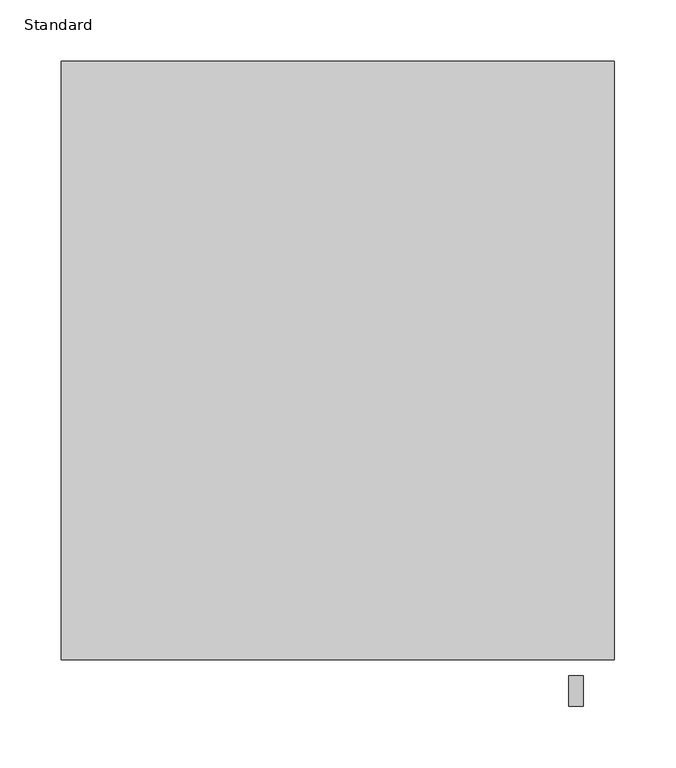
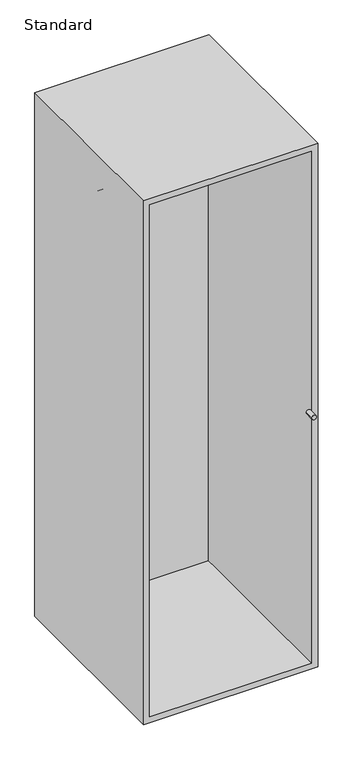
"""IFC4 building model written with IfcOpenShell, lengths in millimetres: furniture geometry, X_Locker-Duracube-EOT Bay : Standard."""

import ifcopenshell
import ifcopenshell.guid

model = None  # the IFC model being written
_history = None  # IfcOwnerHistory: only IFC2X3 demands one
_inside = {}  # id of a spatial element -> (the spatial element, [elements in it])
_under = {}  # id of a project, library or spatial element -> (it, [spatial elements below it])
_declared = {}  # id of a project -> (the project, [libraries it declares])
_typed = {}  # id of a type object -> (the type object, [elements of that type])
_made_of = {}  # id of a material, layer set ... -> (it, [elements and type objects made of it])


def new_model(schema):
    """Start an empty IFC model of exactly this schema.

    Asked for "IFC4X3", IfcOpenShell would pick the latest addendum, in which some entities
    have other attributes; the version numbers below select the first issue.
    IFC2X3 requires an IfcOwnerHistory on every rooted entity: one is made here for all.
    """
    global model, _history
    if schema == "IFC4X3":
        model = ifcopenshell.file(schema_version=(4, 3, 0, 0))
    else:
        model = ifcopenshell.file(schema=schema)
    _inside.clear()
    _under.clear()
    _declared.clear()
    _typed.clear()
    _made_of.clear()
    _history = None
    if model.schema == "IFC2X3":
        org = make("IfcOrganization", Name="unknown")
        user = make(
            "IfcPersonAndOrganization",
            ThePerson=make("IfcPerson", FamilyName="unknown"),
            TheOrganization=org,
        )
        app = make(
            "IfcApplication",
            ApplicationDeveloper=org,
            Version="unknown",
            ApplicationFullName="unknown",
            ApplicationIdentifier="unknown",
        )
        _history = make(
            "IfcOwnerHistory",
            OwningUser=user,
            OwningApplication=app,
            ChangeAction="ADDED",
            CreationDate=0,
        )
    return model


def make(cls, **values):
    """One entity of the class cls with the attributes given. An attribute that is None is left unset."""
    return model.create_entity(
        cls, **{name: value for name, value in values.items() if value is not None}
    )


def rooted(cls, **values):
    """An entity with a GlobalId (a new one), such as an element, a storey or a relation."""
    return make(cls, GlobalId=ifcopenshell.guid.new(), OwnerHistory=_history, **values)


def si_unit(unit_type, name, prefix=None):
    """IfcSIUnit, for example si_unit("LENGTHUNIT", "METRE", prefix="MILLI")."""
    return make("IfcSIUnit", UnitType=unit_type, Prefix=prefix, Name=name)


def assignment(units):
    """IfcUnitAssignment: the units of a project."""
    return None if units is None else make("IfcUnitAssignment", Units=units)


def point(xyz):
    """IfcCartesianPoint."""
    return None if xyz is None else make("IfcCartesianPoint", Coordinates=xyz)


def direction(xyz):
    """IfcDirection."""
    return None if xyz is None else make("IfcDirection", DirectionRatios=xyz)


def frame(location, z_axis=None, x_axis=None):
    """IfcAxis2Placement3D, a coordinate frame: its origin and axes. An axis left out is left unset."""
    return make(
        "IfcAxis2Placement3D",
        Location=point(location),
        Axis=direction(z_axis),
        RefDirection=direction(x_axis),
    )


def frame_2d(location, x_axis=None):
    """IfcAxis2Placement2D, a coordinate frame in the plane: its origin and x axis."""
    return make(
        "IfcAxis2Placement2D", Location=point(location), RefDirection=direction(x_axis)
    )


def origin():
    """The frame at (0, 0, 0) with its axes left unset."""
    return frame((0.0, 0.0, 0.0))


def place(relative_to, where):
    """IfcLocalPlacement: puts the frame where relative to a parent placement (None: the world)."""
    return make(
        "IfcLocalPlacement", PlacementRelTo=relative_to, RelativePlacement=where
    )


def context(
    kind, dimensions, precision=None, world=None, true_north=None, identifier=None
):
    """IfcGeometricRepresentationContext, for example the 3D "Model" context."""
    return make(
        "IfcGeometricRepresentationContext",
        ContextIdentifier=identifier,
        ContextType=kind,
        CoordinateSpaceDimension=dimensions,
        Precision=precision,
        WorldCoordinateSystem=world,
        TrueNorth=true_north,
    )


def project(units=None, contexts=None):
    """IfcProject with its units and contexts."""
    return rooted(
        "IfcProject",
        Name="project",
        RepresentationContexts=contexts,
        UnitsInContext=assignment(units),
    )


def spatial(cls, under=None, at=None, **own):
    """A site, building, storey or space (cls), placed at a placement, below another one or the project."""
    s = rooted(cls, ObjectPlacement=at, **own)
    if under is not None:
        _under.setdefault(under.id(), (under, []))[1].append(s)
    return s


def polyline(points):
    """IfcPolyline through the points."""
    return make("IfcPolyline", Points=[point(p) for p in points])


def circle_curve(where, radius):
    """IfcCircle in the frame where."""
    return make("IfcCircle", Position=where, Radius=radius)


def trimmed(basis, trim1, trim2, sense, master):
    """IfcTrimmedCurve: the piece of a basis curve between two trims."""
    return make(
        "IfcTrimmedCurve",
        BasisCurve=basis,
        Trim1=trim1,
        Trim2=trim2,
        SenseAgreement=sense,
        MasterRepresentation=master,
    )


def segment(curve, same_sense, transition):
    """IfcCompositeCurveSegment."""
    return make(
        "IfcCompositeCurveSegment",
        Transition=transition,
        SameSense=same_sense,
        ParentCurve=curve,
    )


def composite_curve(segments, self_intersect=None):
    """IfcCompositeCurve: segments joined end to end."""
    return make("IfcCompositeCurve", Segments=segments, SelfIntersect=self_intersect)


def outline(outer, holes=None, kind="AREA"):
    """IfcArbitraryClosedProfileDef: a profile drawn as a closed curve; with holes, ...WithVoids."""
    if holes is None:
        return make("IfcArbitraryClosedProfileDef", ProfileType=kind, OuterCurve=outer)
    return make(
        "IfcArbitraryProfileDefWithVoids",
        ProfileType=kind,
        OuterCurve=outer,
        InnerCurves=holes,
    )


def extrude(swept, where, along, depth):
    """IfcExtrudedAreaSolid: the profile swept, set in the frame where, extruded along a direction by depth."""
    return make(
        "IfcExtrudedAreaSolid",
        SweptArea=swept,
        Position=where,
        ExtrudedDirection=direction(along),
        Depth=depth,
    )


def faces_of(points, faces, orient=None, outer=None):
    """IfcFace entities. A face is a list of loops; a loop is a list of indices into points, from 0.

    orient and outer hold one flag for each loop. By default every Orientation is true, the
    first loop of a face is its IfcFaceOuterBound and the others are IfcFaceBound.
    """
    made = []
    for i, loops in enumerate(faces):
        bounds = []
        for j, loop in enumerate(loops):
            is_outer = j == 0 if outer is None else outer[i][j]
            bounds.append(
                make(
                    "IfcFaceOuterBound" if is_outer else "IfcFaceBound",
                    Bound=make("IfcPolyLoop", Polygon=[points[k] for k in loop]),
                    Orientation=True if orient is None else orient[i][j],
                )
            )
        made.append(make("IfcFace", Bounds=bounds))
    return made


def faceted_brep(points, faces, orient=None, outer=None, voids=None):
    """IfcFacetedBrep: a solid bounded by flat faces; with voids (closed shells), ...WithVoids."""
    shared = [point(p) for p in points]
    hull = make("IfcClosedShell", CfsFaces=faces_of(shared, faces, orient, outer))
    if voids is None:
        return make("IfcFacetedBrep", Outer=hull)
    return make(
        "IfcFacetedBrepWithVoids",
        Outer=hull,
        Voids=[
            make(cls, CfsFaces=faces_of(shared, fs, o, b)) for cls, fs, o, b in voids
        ],
    )


def shape(context_of_items, identifier, shape_type, items):
    """IfcShapeRepresentation: the items that make up one representation, for example the "Body"."""
    return make(
        "IfcShapeRepresentation",
        ContextOfItems=context_of_items,
        RepresentationIdentifier=identifier,
        RepresentationType=shape_type,
        Items=items,
    )


def source(mapping_origin, context_of_items, identifier, shape_type, items):
    """IfcRepresentationMap: a shape defined once, which mapped items show again and again."""
    return make(
        "IfcRepresentationMap",
        MappingOrigin=mapping_origin,
        MappedRepresentation=shape(context_of_items, identifier, shape_type, items),
    )


def transform(
    local_origin,
    x_axis=None,
    y_axis=None,
    z_axis=None,
    scale=None,
    scale2=None,
    scale3=None,
    uniform=True,
):
    """IfcCartesianTransformationOperator3D, or its non-uniform kind. x_axis, y_axis, z_axis: its Axis1, 2, 3."""
    if uniform:
        return make(
            "IfcCartesianTransformationOperator3D",
            Axis1=direction(x_axis),
            Axis2=direction(y_axis),
            LocalOrigin=point(local_origin),
            Scale=scale,
            Axis3=direction(z_axis),
        )
    return make(
        "IfcCartesianTransformationOperator3DnonUniform",
        Axis1=direction(x_axis),
        Axis2=direction(y_axis),
        LocalOrigin=point(local_origin),
        Scale=scale,
        Axis3=direction(z_axis),
        Scale2=scale2,
        Scale3=scale3,
    )


def mapped(mapping_source, mapping_target):
    """IfcMappedItem: shows the shape of a source again, moved by a transform."""
    return make(
        "IfcMappedItem", MappingSource=mapping_source, MappingTarget=mapping_target
    )


def made_of(thing, what):
    """Note that an element or type object is made of a material, layer set ...; save() writes the relation."""
    if what is not None:
        _made_of.setdefault(what.id(), (what, []))[1].append(thing)
    return thing


def element(
    cls,
    number,
    at=None,
    inside=None,
    cuts=None,
    type_object=None,
    material=None,
    context=None,
    identifier="Body",
    shape_type=None,
    held_by="IfcProductDefinitionShape",
    body=None,
    shapes=None,
    **own,
):
    """One element of the class cls, such as IfcWall. Its Tag is "e" and its number.

    at: its placement. inside: the storey or other place that contains it. cuts: it is an
    opening in that element (IfcRelVoidsElement). A single representation is given by context,
    identifier, shape_type and body (its items); several are given by shapes. held_by: the class
    of the entity that holds the representations. save() writes the other relations.
    """
    e = rooted(cls, Tag="e%d" % number, ObjectPlacement=at, **own)
    if body is not None:
        shapes = [shape(context, identifier, shape_type, body)]
    if shapes is not None:
        e.Representation = make(held_by, Representations=shapes)
    if inside is not None:
        _inside.setdefault(inside.id(), (inside, []))[1].append(e)
    if cuts is not None:
        rooted(
            "IfcRelVoidsElement", RelatingBuildingElement=cuts, RelatedOpeningElement=e
        )
    if type_object is not None:
        _typed.setdefault(type_object.id(), (type_object, []))[1].append(e)
    return made_of(e, material)


def aggregate(whole, parts):
    """IfcRelAggregates: a whole, such as a stair, and the parts it consists of."""
    return rooted("IfcRelAggregates", RelatingObject=whole, RelatedObjects=parts)


def save(model, path):
    """Write the relations noted so far, then the file.

    IfcRelAggregates (storeys below a building ...), IfcRelContainedInSpatialStructure (elements
    in a storey), IfcRelDefinesByType, IfcRelAssociatesMaterial and IfcRelDeclares: one each for
    every whole, place, type object, material and project.
    """
    for whole, parts in _under.values():
        aggregate(whole, parts)
    for where, things in _inside.values():
        rooted(
            "IfcRelContainedInSpatialStructure",
            RelatedElements=things,
            RelatingStructure=where,
        )
    for kind, things in _typed.values():
        rooted("IfcRelDefinesByType", RelatedObjects=things, RelatingType=kind)
    for what, things in _made_of.values():
        rooted("IfcRelAssociatesMaterial", RelatedObjects=things, RelatingMaterial=what)
    for by, libraries in _declared.values():
        rooted("IfcRelDeclares", RelatingContext=by, RelatedDefinitions=libraries)
    model.write(path)


def standard_99a499ae(model_context):
    return source(origin(), model_context, "Body", "SolidModel", [
        extrude(outline(composite_curve([segment(trimmed(circle_curve(frame_2d((715.0, 238.7003264)), 6.0), [point((715.0, 232.7003264))], [point((715.0, 244.7003264))], False, "CARTESIAN"), True, "CONTINUOUS"), segment(trimmed(circle_curve(frame_2d((715.0, 238.7003264)), 6.0), [point((715.0, 244.7003264))], [point((715.0, 232.7003264))], False, "CARTESIAN"), True, "CONTINUOUS")], self_intersect=False)), frame((0.0, -525.0, 0.0), z_axis=(0.0, 1.0, 0.0), x_axis=(0.0, 0.0, 1.0)), (0.0, 0.0, 1.0), 25.0),
        faceted_brep([(269.7003264, -487.0, 1430.0), (-180.2996736, -487.0, 1430.0), (-180.2996736, -487.0, 0.0), (269.7003264, -487.0, 0.0), (253.7003264, -487.0, 1414.0), (253.7003264, -487.0, 16.0), (-164.2996736, -487.0, 16.0), (-164.2996736, -487.0, 1414.0), (-180.2996736, 0.0, 1430.0), (-180.2996736, 0.0, 0.0), (269.7003264, 0.0, 0.0), (269.7003264, 0.0, 1430.0), (253.7003264, -26.0, 1414.0), (253.7003264, -26.0, 16.0), (253.7003264, 0.0, 1414.0), (253.7003264, 0.0, 16.0), (253.7003264, -10.0, 16.0), (253.7003264, -10.0, 1414.0), (-164.2996736, -26.0, 16.0), (-164.2996736, 0.0, 16.0), (-164.2996736, -10.0, 16.0), (-164.2996736, -26.0, 1414.0), (-164.2996736, 0.0, 1414.0), (-164.2996736, -10.0, 1414.0)], [[[0, 1, 2, 3], [4, 5, 6, 7]], [[2, 1, 8, 9]], [[3, 2, 9, 10]], [[0, 3, 10, 11]], [[5, 4, 12, 13]], [[14, 15, 16, 17]], [[6, 5, 13, 18]], [[15, 19, 20, 16]], [[7, 6, 18, 21]], [[19, 22, 23, 20]], [[11, 10, 9, 8], [14, 22, 19, 15]], [[13, 12, 21, 18]], [[17, 16, 20, 23]], [[1, 0, 11, 8]], [[4, 7, 21, 12]], [[22, 14, 17, 23]]]),
        extrude(outline(composite_curve([segment(polyline([(-242.5, 1331.0), (-242.5, 1316.0)]), True, "CONTINUOUS"), segment(trimmed(circle_curve(frame_2d((-250.0, 1316.0)), 7.5), [point((-242.5, 1316.0))], [point((-257.5, 1316.0))], False, "CARTESIAN"), True, "CONTINUOUS"), segment(polyline([(-257.5, 1316.0), (-257.5, 1331.0)]), True, "CONTINUOUS"), segment(trimmed(circle_curve(frame_2d((-250.0, 1331.0)), 7.5), [point((-257.5, 1331.0))], [point((-242.5, 1331.0))], False, "CARTESIAN"), True, "CONTINUOUS")], self_intersect=False)), frame((-164.2996736, 0.0, 0.0), z_axis=(1.0, 0.0, 0.0), x_axis=(0.0, 1.0, 0.0)), (0.0, 0.0, 1.0), 418.0),
    ])


if __name__ == "__main__":
    model = new_model("IFC4")
    model_context = context("Model", 3, world=origin())
    ifc_project = project(units=[si_unit("LENGTHUNIT", "METRE", prefix="MILLI")], contexts=[model_context])
    site = spatial("IfcSite", under=ifc_project)
    building = spatial("IfcBuilding", under=site)
    placement = place(None, origin())
    standard_shape = standard_99a499ae(model_context)
    element("IfcFurniture", 1, ObjectType="X_Locker-Duracube-EOT Bay : Standard", at=placement, inside=building, context=model_context, shape_type="MappedRepresentation", body=[
        mapped(standard_shape, transform((0.0, 0.0, 0.0), x_axis=(1.0, 0.0, 0.0), y_axis=(0.0, 1.0, 0.0), z_axis=(0.0, 0.0, 1.0))),
    ])
    save(model, "model.ifc")
